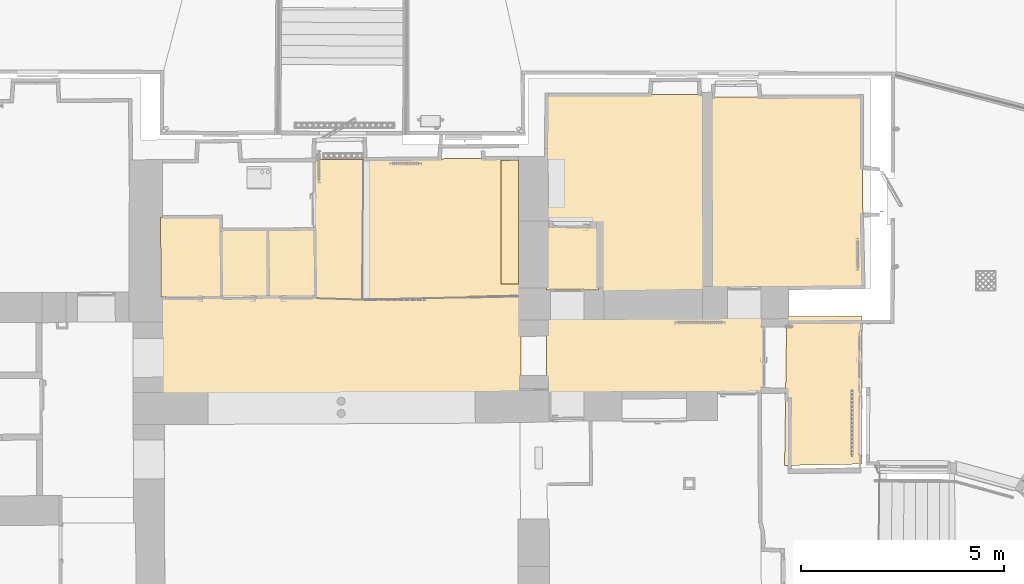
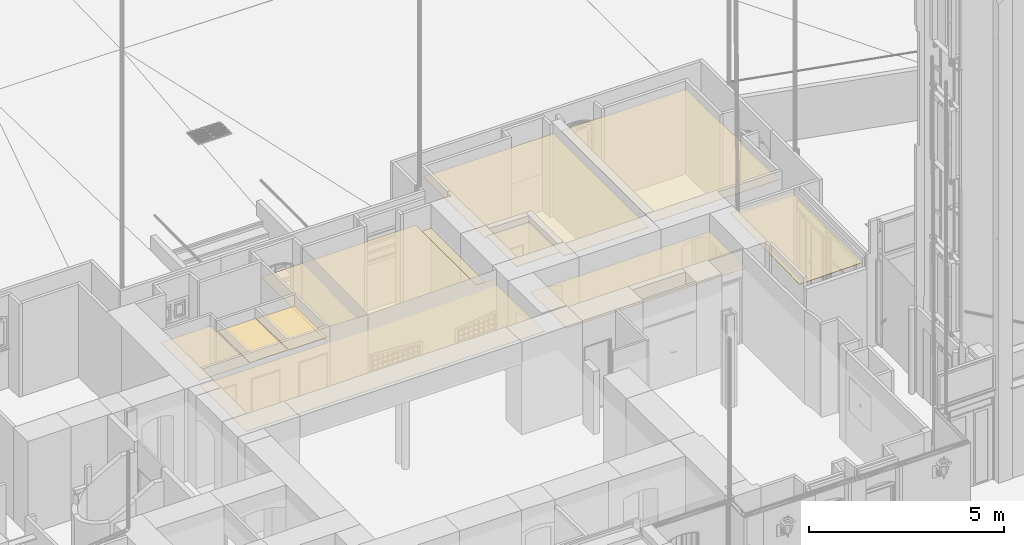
# One storey, part 120 of 133: 9 coverings.
"""IFC2X3 building model written with IfcOpenShell, lengths in centimetres."""

from ifc_helpers import new_model, entity, si_unit, converted_unit, direction, frame, origin, origin_with_axes, place, context, subcontext, project, spatial, faceted_brep, material, element, save


model = new_model("IFC2X3")

# Units and contexts
model_context = context("Model", 3, precision=0.0001, world=origin(), true_north=direction((0.225632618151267, 0.974212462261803, 0.0)))
body_context = subcontext(model_context, "Body", "Model", "MODEL_VIEW")
ifc_project = project(units=[si_unit("LENGTHUNIT", "METRE", prefix="CENTI"), si_unit("AREAUNIT", "SQUARE_METRE", prefix="CENTI"), si_unit("VOLUMEUNIT", "CUBIC_METRE", prefix="CENTI"), converted_unit("PLANEANGLEUNIT", "DEGREE", entity("IfcRatioMeasure", 0.0174532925), si_unit("PLANEANGLEUNIT", "RADIAN"), dimensions=[0, 0, 0, 0, 0, 0, 0])], contexts=[model_context])

# Site, building, storey
site_placement = place(None, origin_with_axes())
site = spatial("IfcSite", under=ifc_project, at=site_placement, Name="Default Site", CompositionType="ELEMENT")
building_placement = place(site_placement, origin_with_axes())
building = spatial("IfcBuilding", under=site, at=building_placement, Name="Default Building", CompositionType="ELEMENT")
storey_placement = place(building_placement, frame((0.0, 0.0, -291.400371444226), z_axis=(0.0, 0.0, 1.0), x_axis=(1.0, 0.0, 0.0)))
storey = spatial("IfcBuildingStorey", under=building, at=storey_placement, Name="Rez-de-Jardin", CompositionType="ELEMENT", Elevation=-291.400371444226)

# Coverings
ifc_material = material(Name="Blanc")
covering_1_placement = place(storey_placement, frame((299.583621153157, 158.980952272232, 228.900371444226), z_axis=(0.0, 0.0, 1.0), x_axis=(1.0, 0.0, 0.0)))
element("IfcCovering", 1, at=covering_1_placement, inside=storey, material=ifc_material, Name="Faux-plafond 72659", PredefinedType="CEILING", context=body_context, shape_type="Brep", body=[
    faceted_brep([(-0.00288022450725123, 1.42115830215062e-06, 0.299996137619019), (0.569634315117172, -186.656315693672, 0.301173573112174), (533.305744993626, -184.595917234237, 1.39680060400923), (534.859566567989, 3.43370579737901, 1.39999619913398), (534.862427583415, 3.43370579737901, 0.0), (533.30870138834, -184.595917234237, -0.00319539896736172), (0.572519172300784, -186.656315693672, -1.09882257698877), (4.64493462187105e-06, 1.42115830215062e-06, -1.1000000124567), (4.64029987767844e-06, 1.42115830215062e-06, -1.09999775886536), (0.572515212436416, -186.656315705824, -1.09882355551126), (0.569635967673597, -186.656315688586, 0.301176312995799), (-0.00287459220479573, 1.43843372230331e-06, 0.299996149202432), (0.57251917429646, -186.656315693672, -1.09882354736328), (533.308701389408, -184.595917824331, -0.00319480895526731), (533.305745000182, -184.595918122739, 1.39679908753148), (0.569634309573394, -186.656315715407, 0.301176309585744), (533.308701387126, -184.595917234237, -0.00319480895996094), (534.862465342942, 3.43370548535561, 7.76563788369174e-08), (534.859586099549, 3.43370563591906, 1.399999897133), (533.305822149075, -184.59591787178, 1.39679924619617), (4.65758956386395e-06, -1.27203665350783e-06, -1.0999977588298), (-0.0028802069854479, -1.3081932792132e-06, 0.299996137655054), (534.859566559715, 3.43370591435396, 1.39999985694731)], [[[0, 1, 2, 3]], [[4, 5, 6, 7]], [[8, 9, 10, 11]], [[12, 13, 14, 15]], [[16, 17, 18, 19]], [[4, 20, 21, 22]]]),
])
covering_2_placement = place(storey_placement, frame((299.785487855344, 709.4582991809, 255.200371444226), z_axis=(0.0, 0.0, 1.0), x_axis=(1.0, 0.0, 0.0)))
element("IfcCovering", 2, at=covering_2_placement, inside=storey, material=ifc_material, Name="Faux-plafond 73404", PredefinedType="CEILING", context=body_context, shape_type="Brep", body=[
    faceted_brep([(0.823361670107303, -317.076845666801, 1.39999802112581), (135.292942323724, -318.081946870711, 1.1229482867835), (135.996563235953, -487.845607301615, 1.12240367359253), (389.537460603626, -483.823009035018, 0.599997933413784), (388.282854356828, 1.00474784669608, 0.599998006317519), (0.0028918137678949, 4.27063751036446e-06, 1.39999798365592), (6.94903796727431e-06, 4.27063771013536e-06, 1.14440919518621e-06), (388.279993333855, 1.00474784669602, -0.799998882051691), (389.534551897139, -483.823009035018, -0.799998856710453), (135.99370221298, -487.845607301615, -0.27759321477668), (135.290081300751, -318.081946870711, -0.277048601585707), (0.820476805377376, -317.076845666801, 1.18187908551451e-06), (0.820476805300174, -317.076845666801, 1.14440919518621e-06), (135.290081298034, -318.081946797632, -0.277050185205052), (135.292942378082, -318.081939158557, 1.12294669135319), (0.823361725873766, -317.076838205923, 1.39999802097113), (135.290081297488, -318.08194687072, -0.277050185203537), (135.993721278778, -487.845607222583, -0.277595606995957), (135.996605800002, -487.845607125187, 1.12240122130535), (135.292965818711, -318.081946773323, 1.12294664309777), (135.993702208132, -487.845607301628, -0.277595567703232), (389.534551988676, -483.823015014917, -0.800000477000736), (389.537460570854, -483.823007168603, 0.599996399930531), (135.996563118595, -487.845600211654, 1.12240130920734), (389.534551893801, -483.823009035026, -0.800000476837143), (388.279980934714, 1.00474781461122, -0.800000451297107), (388.282865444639, 1.0047478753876, 0.599996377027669), (389.537436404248, -483.823009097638, 0.599996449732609), (388.279993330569, 1.00474784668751, -0.800000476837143), (6.93400603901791e-06, 1.00797125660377e-05, 1.14440919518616e-06), (0.00289177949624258, 1.75447206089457e-05, 1.39999802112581), (388.282854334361, 1.00475525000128, 0.599996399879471), (0.820495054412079, -317.076845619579, 1.10680929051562e-06), (0.823379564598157, -317.076845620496, 1.39999798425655), (0.00289145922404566, 4.26972007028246e-06, 1.39999802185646)], [[[0, 1, 2, 3, 4, 5]], [[6, 7, 8, 9, 10, 11]], [[12, 13, 14, 15]], [[16, 17, 18, 19]], [[20, 21, 22, 23]], [[24, 25, 26, 27]], [[28, 29, 30, 31]], [[6, 32, 33, 34]]]),
])
covering_3_placement = place(storey_placement, frame((704.08356737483, 703.399652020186, 260.900371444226), z_axis=(0.0, 0.0, 1.0), x_axis=(1.0, 0.0, 0.0)))
element("IfcCovering", 3, at=covering_3_placement, inside=storey, material=ifc_material, Name="Faux-plafond 73405", PredefinedType="CEILING", context=body_context, shape_type="Brep", body=[
    faceted_brep([(1.16888929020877, -472.307294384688, 1.39999914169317), (377.225369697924, -469.131797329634, 1.39999914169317), (373.172635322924, 1.91722534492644, 1.39999914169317), (1.83643054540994e-05, 6.18293913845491e-06, 1.39999914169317), (1.83643054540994e-05, 6.18293913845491e-06, -7.1525568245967e-07), (373.172635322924, 1.91722534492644, -7.1525568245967e-07), (377.225369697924, -469.131797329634, -7.1525568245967e-07), (1.16888929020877, -472.307294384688, -7.1525568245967e-07), (377.225369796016, -469.131808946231, -7.1525568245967e-07), (377.225369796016, -469.131808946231, 1.39999914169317), (373.172708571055, 1.91722597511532, -7.1525568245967e-07), (373.172708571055, 1.91722597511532, 1.39999914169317), (1.82866701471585e-05, 2.1294200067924e-05, -7.1525568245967e-07), (1.82866701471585e-05, 2.1294200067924e-05, 1.39999914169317), (1.16890869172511, -472.307294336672, -7.1525568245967e-07), (1.16890869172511, -472.307294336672, 1.39999914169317)], [[[0, 1, 2, 3]], [[4, 5, 6, 7]], [[7, 8, 9, 0]], [[6, 10, 11, 1]], [[5, 12, 13, 2]], [[4, 14, 15, 3]]]),
])
covering_4_placement = place(storey_placement, frame((-386.438528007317, 377.083320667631, 252.800371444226), z_axis=(0.0, 0.0, 1.0), x_axis=(1.0, 0.0, 0.0)))
element("IfcCovering", 4, at=covering_4_placement, inside=storey, material=ifc_material, Name="Faux-plafond 73402", PredefinedType="CEILING", context=body_context, shape_type="Brep", body=[
    faceted_brep([(2.75525183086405, -164.85440259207, 1.39999911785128), (115.336171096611, -164.179534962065, 1.39999911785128), (113.331929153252, 0.74222559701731, 1.39999911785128), (-8.63666524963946e-06, 4.71841623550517e-06, 1.39999911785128), (-8.63666524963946e-06, 4.71841623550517e-06, -7.39097572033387e-07), (113.331929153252, 0.74222559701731, -7.39097572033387e-07), (115.336171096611, -164.179534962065, -7.39097572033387e-07), (2.75525183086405, -164.85440259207, -7.39097572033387e-07), (115.336171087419, -164.179533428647, -7.39097572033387e-07), (115.336171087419, -164.179533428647, 1.39999911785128), (113.331946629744, 0.742225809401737, -7.39097572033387e-07), (113.331946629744, 0.742225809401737, 1.39999911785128), (-8.58809059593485e-06, -2.69851958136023e-06, -7.39097572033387e-07), (-8.58809059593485e-06, -2.69851958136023e-06, 1.39999911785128), (2.75523272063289, -164.854402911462, -7.39097572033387e-07), (2.75523272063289, -164.854402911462, 1.39999911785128)], [[[0, 1, 2, 3]], [[4, 5, 6, 7]], [[7, 8, 9, 0]], [[6, 10, 11, 1]], [[5, 12, 13, 2]], [[4, 14, 15, 3]]]),
])
covering_5_placement = place(storey_placement, frame((299.479056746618, 385.389678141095, 265.700371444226), z_axis=(0.0, 0.0, 1.0), x_axis=(1.0, 0.0, 0.0)))
element("IfcCovering", 5, at=covering_5_placement, inside=storey, material=ifc_material, Name="Faux-plafond 73403", PredefinedType="CEILING", context=body_context, shape_type="Brep", body=[
    faceted_brep([(-0.165320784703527, -157.379429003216, 1.39999992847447), (128.773258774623, -157.311241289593, 1.39999992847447), (128.125189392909, -0.957672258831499, 1.39999992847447), (-1.34195450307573e-06, 7.48970365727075e-06, 1.39999992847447), (-1.34195450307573e-06, 7.48970365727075e-06, 7.15256187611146e-08), (128.125189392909, -0.957672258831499, 7.15256187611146e-08), (128.773258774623, -157.311241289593, 7.15256187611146e-08), (-0.165320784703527, -157.379429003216, 7.15256187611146e-08), (128.773258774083, -157.311240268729, 7.15256187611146e-08), (128.773258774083, -157.311240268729, 1.39999992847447), (128.125201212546, -0.957672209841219, 7.15256187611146e-08), (128.125201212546, -0.957672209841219, 1.39999992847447), (-1.34421753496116e-06, 7.18693910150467e-06, 7.15256187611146e-08), (-1.34421753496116e-06, 7.18693910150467e-06, 1.39999992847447), (-0.165319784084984, -157.379429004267, 7.15256187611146e-08), (-0.165319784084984, -157.379429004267, 1.39999992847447)], [[[0, 1, 2, 3]], [[4, 5, 6, 7]], [[7, 8, 9, 0]], [[6, 10, 11, 1]], [[5, 12, 13, 2]], [[4, 14, 15, 3]]]),
])
covering_6_placement = place(storey_placement, frame((892.086750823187, 161.967500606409, 267.000371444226), z_axis=(0.0, 0.0, 1.0), x_axis=(1.0, 0.0, 0.0)))
element("IfcCovering", 6, at=covering_6_placement, inside=storey, material=ifc_material, Name="Faux-plafond 73406", PredefinedType="CEILING", context=body_context, shape_type="Brep", body=[
    faceted_brep([(-5.27654345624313, -367.149790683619, 1.39999958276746), (185.90320889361, -363.498553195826, 1.39999958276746), (185.591738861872, 1.56716450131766, 1.39999958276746), (4.11690010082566e-05, 3.41809622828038e-06, 1.39999958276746), (4.11690010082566e-05, 3.41809622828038e-06, -2.74181388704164e-07), (185.591738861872, 1.56716450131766, -2.74181388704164e-07), (185.90320889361, -363.498553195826, -2.74181388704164e-07), (-5.27654345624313, -367.149790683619, -2.74181388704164e-07), (185.903209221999, -363.498570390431, -2.74181388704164e-07), (185.903209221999, -363.498570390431, 1.39999958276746), (185.591729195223, 1.56716449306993, -2.74181388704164e-07), (185.591729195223, 1.56716449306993, 1.39999958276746), (4.12285502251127e-05, -3.63401260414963e-06, -2.74181388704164e-07), (4.12285502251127e-05, -3.63401260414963e-06, 1.39999958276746), (-5.27651277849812, -367.149791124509, -2.74181388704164e-07), (-5.27651277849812, -367.149791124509, 1.39999958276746)], [[[0, 1, 2, 3]], [[4, 5, 6, 7]], [[7, 8, 9, 0]], [[6, 10, 11, 1]], [[5, 12, 13, 2]], [[4, 14, 15, 3]]]),
])
covering_7_placement = place(storey_placement, frame((-501.27731193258, 376.331223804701, 254.500371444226), z_axis=(0.0, 0.0, 1.0), x_axis=(1.0, 0.0, 0.0)))
element("IfcCovering", 7, at=covering_7_placement, inside=storey, material=ifc_material, Name="Faux-plafond 73401", PredefinedType="CEILING", context=body_context, shape_type="Brep", body=[
    faceted_brep([(0.917061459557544, -164.796461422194, 1.40000107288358), (113.430246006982, -164.124621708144, 1.40000107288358), (112.512072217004, 0.736866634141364, 1.40000107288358), (8.23690129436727e-06, 1.0173570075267e-05, 1.40000107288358), (8.23690129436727e-06, 1.0173570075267e-05, 1.2159347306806e-06), (112.512072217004, 0.736866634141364, 1.2159347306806e-06), (113.430246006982, -164.124621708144, 1.2159347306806e-06), (0.917061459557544, -164.796461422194, 1.2159347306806e-06), (113.430245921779, -164.124607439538, 1.2159347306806e-06), (113.430245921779, -164.124607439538, 1.40000107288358), (112.512066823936, 0.736866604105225, 1.2159347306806e-06), (112.512066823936, 0.736866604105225, 1.40000107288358), (8.25232763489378e-06, 7.81809929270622e-06, 1.2159347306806e-06), (8.25232763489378e-06, 7.81809929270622e-06, 1.40000107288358), (0.917076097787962, -164.796461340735, 1.2159347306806e-06), (0.917076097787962, -164.796461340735, 1.40000107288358)], [[[0, 1, 2, 3]], [[4, 5, 6, 7]], [[7, 8, 9, 0]], [[6, 10, 11, 1]], [[5, 12, 13, 2]], [[4, 14, 15, 3]]]),
])
covering_8_placement = place(storey_placement, frame((-650.834233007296, 208.636195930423, 238.400371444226), z_axis=(0.0, 0.0, 1.0), x_axis=(1.0, 0.0, 0.0)))
element("IfcCovering", 8, at=covering_8_placement, inside=storey, material=ifc_material, Name="Faux-plafond 73399", PredefinedType="CEILING", context=body_context, shape_type="Brep", body=[
    faceted_brep([(380.838710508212, 2.27412435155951, 1.40000271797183), (6.39901980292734e-06, -7.42334282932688e-06, 1.40000271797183), (0.441843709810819, -238.250194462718, 1.40000271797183), (887.743670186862, -233.644847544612, 1.40000271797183), (887.155324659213, 33.9259788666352, 1.40000271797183), (838.502544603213, 33.8095829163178, 1.40000271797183), (837.760693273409, 343.897573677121, 1.40000271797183), (377.973086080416, 340.217725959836, 1.40000271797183), (377.973086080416, 340.217725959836, 2.86102297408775e-06), (837.760693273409, 343.897573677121, 2.86102297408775e-06), (838.502544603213, 33.8095829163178, 2.86102297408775e-06), (887.155324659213, 33.9259788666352, 2.86102297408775e-06), (887.743670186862, -233.644847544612, 2.86102297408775e-06), (0.441843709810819, -238.250194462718, 2.86102297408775e-06), (6.39901980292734e-06, -7.42334282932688e-06, 2.86102297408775e-06), (380.838710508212, 2.27412435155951, 2.86102297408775e-06), (6.30308037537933e-06, 8.64331865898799e-06, 2.86102297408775e-06), (6.30308037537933e-06, 8.64331865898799e-06, 1.40000271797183), (0.441864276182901, -238.250194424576, 2.86102297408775e-06), (0.441864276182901, -238.250194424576, 1.40000271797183), (887.743670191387, -233.6448484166, 2.86102297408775e-06), (887.743670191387, -233.6448484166, 1.40000271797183), (887.155319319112, 33.9259788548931, 2.86102297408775e-06), (887.155319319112, 33.9259788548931, 1.40000271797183), (838.502544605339, 33.8095820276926, 2.86102297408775e-06), (838.502544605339, 33.8095820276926, 1.40000271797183), (837.760690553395, 343.897573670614, 2.86102297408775e-06), (837.760690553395, 343.897573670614, 1.40000271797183), (377.973086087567, 340.217725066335, 2.86102297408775e-06), (377.973086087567, 340.217725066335, 1.40000271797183), (380.838714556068, 2.27412438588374, 2.86102297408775e-06), (380.838714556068, 2.27412438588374, 1.40000271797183)], [[[0, 1, 2, 3, 4, 5, 6, 7]], [[8, 9, 10, 11, 12, 13, 14, 15]], [[15, 16, 17, 0]], [[14, 18, 19, 1]], [[13, 20, 21, 2]], [[12, 22, 23, 3]], [[11, 24, 25, 4]], [[10, 26, 27, 5]], [[9, 28, 29, 6]], [[8, 30, 31, 7]]]),
    faceted_brep([(836.528903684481, 338.838569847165, -20.6000001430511), (837.255508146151, 32.5566217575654, -20.6000001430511), (881.161886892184, 32.6607868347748, -20.6000001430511), (881.483942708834, 339.247362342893, -20.6000001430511), (881.483942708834, 339.247362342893, -22.0), (881.161886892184, 32.6607868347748, -22.0), (837.255508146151, 32.5566217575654, -22.0), (836.528903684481, 338.838569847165, -22.0), (837.255515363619, 32.5566217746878, -22.0), (837.255515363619, 32.5566217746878, -20.6000001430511), (881.161886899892, 32.660783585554, -22.0), (881.161886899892, 32.660783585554, -20.6000001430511), (881.483939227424, 339.24736234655, -22.0), (881.483939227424, 339.24736234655, -20.6000001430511), (836.528903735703, 338.838564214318, -22.0), (836.528903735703, 338.838564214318, -20.6000001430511)], [[[0, 1, 2, 3]], [[4, 5, 6, 7]], [[7, 8, 9, 0]], [[6, 10, 11, 1]], [[5, 12, 13, 2]], [[4, 14, 15, 3]]]),
    faceted_brep([(837.255508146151, 32.5566217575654, -21.099999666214), (836.528903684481, 338.838569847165, -21.099999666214), (837.778896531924, 338.841526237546, -21.099999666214), (838.502544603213, 33.8095829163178, -21.099999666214), (836.528903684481, 338.838569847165, -3.09944150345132e-06), (837.778896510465, 338.841535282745, -3.09944150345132e-06), (837.778896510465, 338.841535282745, -21.099999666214), (837.255508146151, 32.5566217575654, -3.09944150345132e-06), (838.502544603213, 33.8095829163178, -3.09944150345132e-06), (837.778896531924, 338.841526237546, -3.09944150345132e-06), (838.502541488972, 33.8095860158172, -21.099999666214), (838.502541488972, 33.8095860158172, -3.09944150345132e-06), (837.778898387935, 338.841526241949, -21.099999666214), (837.778898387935, 338.841526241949, -3.09944150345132e-06), (836.528896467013, 338.838569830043, -3.09944150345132e-06), (836.528896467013, 338.838569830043, -21.099999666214), (881.161886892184, 32.6607868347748, -21.099999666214), (837.255508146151, 32.5566217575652, -21.1000025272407), (838.502544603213, 33.8095829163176, -21.1000025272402), (881.158930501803, 33.9107916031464, -21.0999997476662), (881.161886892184, 32.6607868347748, -2.38414551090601e-07), (881.158930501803, 33.9107916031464, -2.38413959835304e-07), (838.502544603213, 33.8095829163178, -3.01798889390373e-06), (881.161886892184, 32.6607868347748, 2.86102297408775e-06), (881.158921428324, 33.9107915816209, -21.099999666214), (881.158921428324, 33.9107915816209, 2.86102297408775e-06), (881.158930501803, 33.9107916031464, -21.099999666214), (838.502544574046, 33.8095952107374, -21.099999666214), (838.502544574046, 33.8095952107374, -3.09944150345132e-06), (881.158930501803, 33.9107916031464, 2.86102297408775e-06), (837.255508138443, 32.5566250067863, -3.09944150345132e-06), (837.255508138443, 32.5566250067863, -21.099999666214)], [[[0, 1, 2, 3]], [[1, 4, 5, 6]], [[4, 7, 8, 9]], [[7, 0, 10, 11]], [[3, 12, 13, 8]], [[7, 14, 15, 0]], [[16, 17, 18, 19]], [[0, 7, 11, 10]], [[7, 20, 21, 22]], [[23, 16, 24, 25]], [[26, 27, 28, 29]], [[23, 30, 31, 16]]]),
])
covering_9_placement = place(storey_placement, frame((-652.06447384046, 407.737481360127, 252.100371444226), z_axis=(0.0, 0.0, 1.0), x_axis=(1.0, 0.0, 0.0)))
element("IfcCovering", 9, at=covering_9_placement, inside=storey, material=ifc_material, Name="Faux-plafond 73400", PredefinedType="CEILING", context=body_context, shape_type="Brep", body=[
    faceted_brep([(1.16253635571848, -197.101652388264, 1.39999918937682), (150.104243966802, -196.212279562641, 1.39999918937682), (149.008519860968, 0.688708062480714, 1.39999918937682), (0.00191471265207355, -0.323378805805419, 1.39999918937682), (0.00191471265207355, -0.323378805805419, -6.67572036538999e-07), (149.008519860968, 0.688708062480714, -6.67572036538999e-07), (150.104243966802, -196.212279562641, -6.67572036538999e-07), (1.16253635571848, -197.101652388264, -6.67572036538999e-07), (150.104243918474, -196.212271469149, -6.67572036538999e-07), (150.104243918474, -196.212271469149, 1.39999918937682), (149.008519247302, 0.688708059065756, -6.67572036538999e-07), (149.008519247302, 0.688708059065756, 1.39999918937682), (0.00191456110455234, -0.323356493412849, -6.67572036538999e-07), (0.00191456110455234, -0.323356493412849, 1.39999918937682), (1.16256491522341, -197.101652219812, -6.67572036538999e-07), (1.16256491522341, -197.101652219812, 1.39999918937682)], [[[0, 1, 2, 3]], [[4, 5, 6, 7]], [[7, 8, 9, 0]], [[6, 10, 11, 1]], [[5, 12, 13, 2]], [[4, 14, 15, 3]]]),
])

save(model, "model.ifc")
